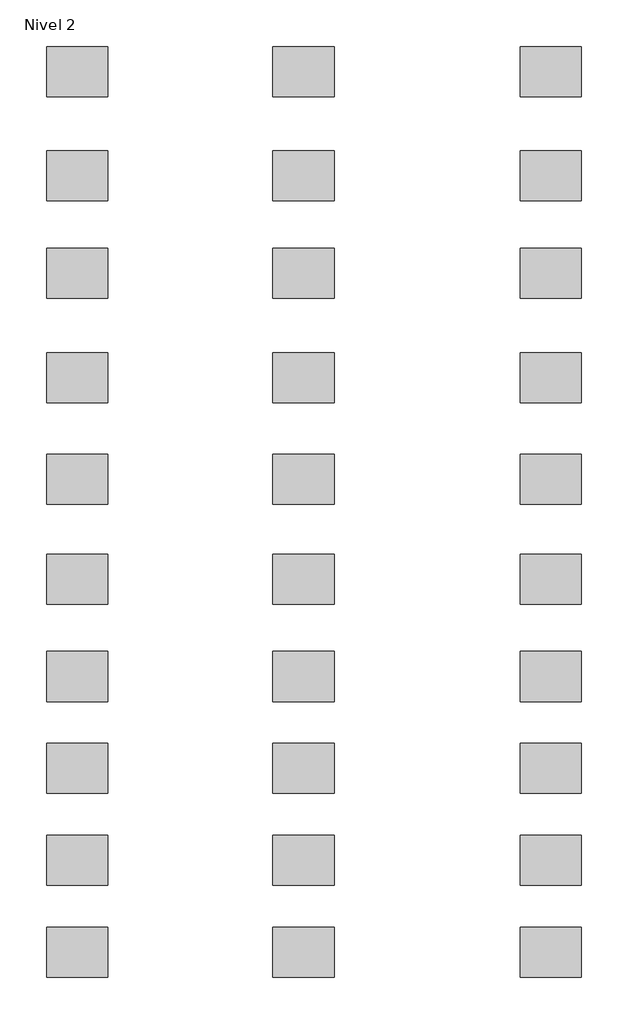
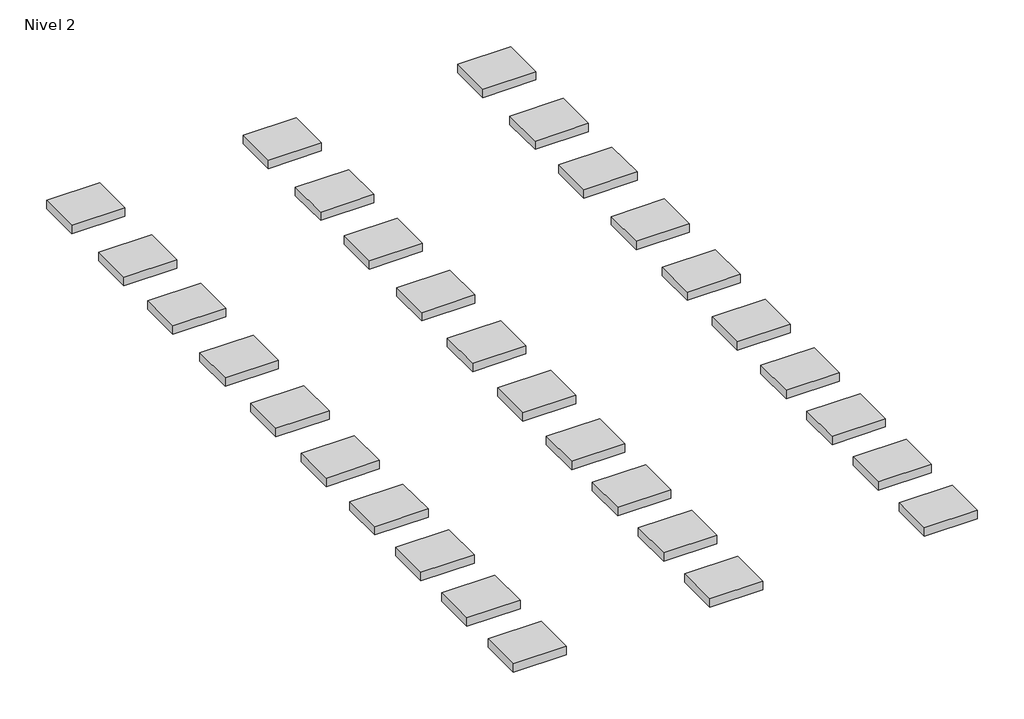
# One storey: 30 furniture elements.
"""IFC4 building model written with IfcOpenShell, lengths in millimetres."""

from ifc_helpers import new_model, si_unit, origin, place, context, project, spatial, transform, mapped, element, save
from components import furniture_fc90d0a3

model = new_model("IFC4")

# Units and contexts
model_context = context("Model", 3, world=origin())
ifc_project = project(units=[si_unit("LENGTHUNIT", "METRE", prefix="MILLI")], contexts=[model_context])

# Site, building, storey
site = spatial("IfcSite", under=ifc_project)
building = spatial("IfcBuilding", under=site)
storey = spatial("IfcBuildingStorey", under=building, Name="Nivel 2", Elevation=4000.0)

# Furniture
placement = place(None, origin())
furniture_shape = furniture_fc90d0a3(model_context)
element("IfcFurniture", 1, ObjectType="Spirit : Spirit 27", at=placement, inside=storey, context=model_context, shape_type="MappedRepresentation", body=[
    mapped(furniture_shape, transform((-9674.6867993, -2268.6836678, 4000.0), x_axis=(1.0, 0.0, 0.0), y_axis=(0.0, 1.0, 0.0), z_axis=(0.0, 0.0, 1.0))),
])
element("IfcFurniture", 2, ObjectType="Spirit : Spirit 29", at=placement, inside=storey, context=model_context, shape_type="MappedRepresentation", body=[
    mapped(furniture_shape, transform((-9674.6867993, -4632.6483159, 4000.0), x_axis=(1.0, 0.0, 0.0), y_axis=(0.0, 1.0, 0.0), z_axis=(0.0, 0.0, 1.0))),
])
element("IfcFurniture", 3, ObjectType="Spirit : Spirit 43", at=placement, inside=storey, context=model_context, shape_type="MappedRepresentation", body=[
    mapped(furniture_shape, transform((-9674.6867993, -9090.4102238, 4000.0), x_axis=(1.0, 0.0, 0.0), y_axis=(0.0, 1.0, 0.0), z_axis=(0.0, 0.0, 1.0))),
])
element("IfcFurniture", 4, ObjectType="Spirit : Spirit 91", at=placement, inside=storey, context=model_context, shape_type="MappedRepresentation", body=[
    mapped(furniture_shape, transform((-4174.6867993, 5160.919512, 4000.0), x_axis=(1.0, 0.0, 0.0), y_axis=(0.0, 1.0, 0.0), z_axis=(0.0, 0.0, 1.0))),
])
element("IfcFurniture", 5, ObjectType="Spirit : Spirit 93", at=placement, inside=storey, context=model_context, shape_type="MappedRepresentation", body=[
    mapped(furniture_shape, transform((-4174.6867993, 2628.1002461, 4000.0), x_axis=(1.0, 0.0, 0.0), y_axis=(0.0, 1.0, 0.0), z_axis=(0.0, 0.0, 1.0))),
])
element("IfcFurniture", 6, ObjectType="Spirit : Spirit 100", at=placement, inside=storey, context=model_context, shape_type="MappedRepresentation", body=[
    mapped(furniture_shape, transform((-4174.6867993, 162.8228274, 4000.0), x_axis=(1.0, 0.0, 0.0), y_axis=(0.0, 1.0, 0.0), z_axis=(0.0, 0.0, 1.0))),
])
element("IfcFurniture", 7, ObjectType="Spirit : Spirit 111", at=placement, inside=storey, context=model_context, shape_type="MappedRepresentation", body=[
    mapped(furniture_shape, transform((-4174.6867993, -4632.6483159, 4000.0), x_axis=(1.0, 0.0, 0.0), y_axis=(0.0, 1.0, 0.0), z_axis=(0.0, 0.0, 1.0))),
])
element("IfcFurniture", 8, ObjectType="Spirit : Spirit 144", at=placement, inside=storey, context=model_context, shape_type="MappedRepresentation", body=[
    mapped(furniture_shape, transform((-4174.6867993, -6861.5292699, 4000.0), x_axis=(1.0, 0.0, 0.0), y_axis=(0.0, 1.0, 0.0), z_axis=(0.0, 0.0, 1.0))),
])
element("IfcFurniture", 9, ObjectType="Spirit : Spirit 214", at=placement, inside=storey, context=model_context, shape_type="MappedRepresentation", body=[
    mapped(furniture_shape, transform((-4174.6867993, -11332.6483159, 4000.0), x_axis=(1.0, 0.0, 0.0), y_axis=(0.0, 1.0, 0.0), z_axis=(0.0, 0.0, 1.0))),
])
element("IfcFurniture", 10, ObjectType="Spirit : Spirit 266", at=placement, inside=storey, context=model_context, shape_type="MappedRepresentation", body=[
    mapped(furniture_shape, transform((1825.3132007, 7528.1002461, 4000.0), x_axis=(1.0, 0.0, 0.0), y_axis=(0.0, 1.0, 0.0), z_axis=(0.0, 0.0, 1.0))),
])
element("IfcFurniture", 11, ObjectType="Spirit : Spirit 300", at=placement, inside=storey, context=model_context, shape_type="MappedRepresentation", body=[
    mapped(furniture_shape, transform((1825.3132007, 5160.919512, 4000.0), x_axis=(1.0, 0.0, 0.0), y_axis=(0.0, 1.0, 0.0), z_axis=(0.0, 0.0, 1.0))),
])
element("IfcFurniture", 12, ObjectType="Spirit : Spirit 311", at=placement, inside=storey, context=model_context, shape_type="MappedRepresentation", body=[
    mapped(furniture_shape, transform((1825.3132007, 2628.1002461, 4000.0), x_axis=(1.0, 0.0, 0.0), y_axis=(0.0, 1.0, 0.0), z_axis=(0.0, 0.0, 1.0))),
])
element("IfcFurniture", 13, ObjectType="Spirit : Spirit 313", at=placement, inside=storey, context=model_context, shape_type="MappedRepresentation", body=[
    mapped(furniture_shape, transform((1825.3132007, 162.8228274, 4000.0), x_axis=(1.0, 0.0, 0.0), y_axis=(0.0, 1.0, 0.0), z_axis=(0.0, 0.0, 1.0))),
])
element("IfcFurniture", 14, ObjectType="Spirit : Spirit 330", at=placement, inside=storey, context=model_context, shape_type="MappedRepresentation", body=[
    mapped(furniture_shape, transform((1825.3132007, -2268.6836678, 4000.0), x_axis=(1.0, 0.0, 0.0), y_axis=(0.0, 1.0, 0.0), z_axis=(0.0, 0.0, 1.0))),
])
element("IfcFurniture", 15, ObjectType="Spirit : Spirit 336", at=placement, inside=storey, context=model_context, shape_type="MappedRepresentation", body=[
    mapped(furniture_shape, transform((1825.3132007, -4632.6483159, 4000.0), x_axis=(1.0, 0.0, 0.0), y_axis=(0.0, 1.0, 0.0), z_axis=(0.0, 0.0, 1.0))),
])
element("IfcFurniture", 16, ObjectType="Spirit : Spirit 514", at=placement, inside=storey, context=model_context, shape_type="MappedRepresentation", body=[
    mapped(furniture_shape, transform((1825.3132007, -6861.5292699, 4000.0), x_axis=(1.0, 0.0, 0.0), y_axis=(0.0, 1.0, 0.0), z_axis=(0.0, 0.0, 1.0))),
])
element("IfcFurniture", 17, ObjectType="Spirit : Spirit 602", at=placement, inside=storey, context=model_context, shape_type="MappedRepresentation", body=[
    mapped(furniture_shape, transform((1825.3132007, -11332.6483159, 4000.0), x_axis=(1.0, 0.0, 0.0), y_axis=(0.0, 1.0, 0.0), z_axis=(0.0, 0.0, 1.0))),
])
element("IfcFurniture", 18, ObjectType="Spirit : Spirit 01", at=placement, inside=storey, context=model_context, shape_type="MappedRepresentation", body=[
    mapped(furniture_shape, transform((-9674.6867993, 10060.919512, 4000.0), x_axis=(1.0, 0.0, 0.0), y_axis=(0.0, 1.0, 0.0), z_axis=(0.0, 0.0, 1.0))),
])
element("IfcFurniture", 19, ObjectType="Spirit : Spirit 02", at=placement, inside=storey, context=model_context, shape_type="MappedRepresentation", body=[
    mapped(furniture_shape, transform((-9674.6867993, 7528.1002461, 4000.0), x_axis=(1.0, 0.0, 0.0), y_axis=(0.0, 1.0, 0.0), z_axis=(0.0, 0.0, 1.0))),
])
element("IfcFurniture", 20, ObjectType="Spirit : Spirit 11", at=placement, inside=storey, context=model_context, shape_type="MappedRepresentation", body=[
    mapped(furniture_shape, transform((-9674.6867993, 5160.919512, 4000.0), x_axis=(1.0, 0.0, 0.0), y_axis=(0.0, 1.0, 0.0), z_axis=(0.0, 0.0, 1.0))),
])
element("IfcFurniture", 21, ObjectType="Spirit : Spirit 12", at=placement, inside=storey, context=model_context, shape_type="MappedRepresentation", body=[
    mapped(furniture_shape, transform((-9674.6867993, 2628.1002461, 4000.0), x_axis=(1.0, 0.0, 0.0), y_axis=(0.0, 1.0, 0.0), z_axis=(0.0, 0.0, 1.0))),
])
element("IfcFurniture", 22, ObjectType="Spirit : Spirit 15", at=placement, inside=storey, context=model_context, shape_type="MappedRepresentation", body=[
    mapped(furniture_shape, transform((-9674.6867993, 162.8228274, 4000.0), x_axis=(1.0, 0.0, 0.0), y_axis=(0.0, 1.0, 0.0), z_axis=(0.0, 0.0, 1.0))),
])
element("IfcFurniture", 23, ObjectType="Spirit : Spirit 40", at=placement, inside=storey, context=model_context, shape_type="MappedRepresentation", body=[
    mapped(furniture_shape, transform((-9674.6867993, -6861.5292699, 4000.0), x_axis=(1.0, 0.0, 0.0), y_axis=(0.0, 1.0, 0.0), z_axis=(0.0, 0.0, 1.0))),
])
element("IfcFurniture", 24, ObjectType="Spirit : Spirit 55", at=placement, inside=storey, context=model_context, shape_type="MappedRepresentation", body=[
    mapped(furniture_shape, transform((-9674.6867993, -11332.6483159, 4000.0), x_axis=(1.0, 0.0, 0.0), y_axis=(0.0, 1.0, 0.0), z_axis=(0.0, 0.0, 1.0))),
])
element("IfcFurniture", 25, ObjectType="Spirit : Spirit 59", at=placement, inside=storey, context=model_context, shape_type="MappedRepresentation", body=[
    mapped(furniture_shape, transform((-4174.6867993, 10060.919512, 4000.0), x_axis=(1.0, 0.0, 0.0), y_axis=(0.0, 1.0, 0.0), z_axis=(0.0, 0.0, 1.0))),
])
element("IfcFurniture", 26, ObjectType="Spirit : Spirit 105", at=placement, inside=storey, context=model_context, shape_type="MappedRepresentation", body=[
    mapped(furniture_shape, transform((-4174.6867993, -2268.6836678, 4000.0), x_axis=(1.0, 0.0, 0.0), y_axis=(0.0, 1.0, 0.0), z_axis=(0.0, 0.0, 1.0))),
])
element("IfcFurniture", 27, ObjectType="Spirit : Spirit 213", at=placement, inside=storey, context=model_context, shape_type="MappedRepresentation", body=[
    mapped(furniture_shape, transform((-4174.6867993, -9090.4102238, 4000.0), x_axis=(1.0, 0.0, 0.0), y_axis=(0.0, 1.0, 0.0), z_axis=(0.0, 0.0, 1.0))),
])
element("IfcFurniture", 28, ObjectType="Spirit : Spirit 250", at=placement, inside=storey, context=model_context, shape_type="MappedRepresentation", body=[
    mapped(furniture_shape, transform((1825.3132007, 10060.919512, 4000.0), x_axis=(1.0, 0.0, 0.0), y_axis=(0.0, 1.0, 0.0), z_axis=(0.0, 0.0, 1.0))),
])
element("IfcFurniture", 29, ObjectType="Spirit : Spirit 516", at=placement, inside=storey, context=model_context, shape_type="MappedRepresentation", body=[
    mapped(furniture_shape, transform((1825.3132007, -9090.4102238, 4000.0), x_axis=(1.0, 0.0, 0.0), y_axis=(0.0, 1.0, 0.0), z_axis=(0.0, 0.0, 1.0))),
])
element("IfcFurniture", 30, ObjectType="Spirit : Spirit 69", at=placement, inside=storey, context=model_context, shape_type="MappedRepresentation", body=[
    mapped(furniture_shape, transform((-4174.6867993, 7528.1002461, 4000.0), x_axis=(1.0, 0.0, 0.0), y_axis=(0.0, 1.0, 0.0), z_axis=(0.0, 0.0, 1.0))),
])

save(model, "model.ifc")
